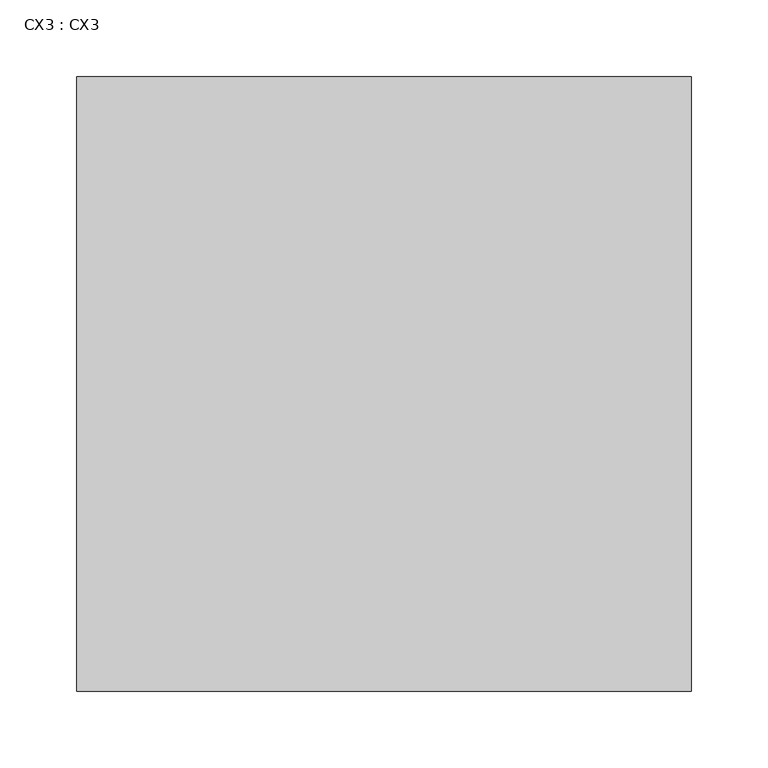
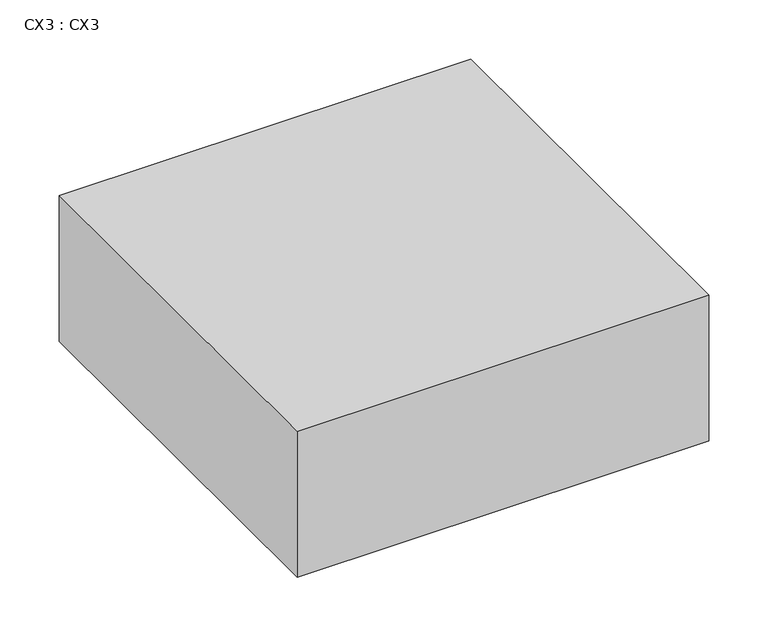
"""IFC4 building model written with IfcOpenShell, lengths in millimetres: proxy geometry, CX3 : CX3."""

from ifc_helpers import new_model, si_unit, frame, origin, place, context, project, spatial, polyline, outline, extrude, source, transform, mapped, element, save


def cx3_cx3_4929cd0b(model_context):
    return source(origin(), model_context, "Body", "SweptSolid", [
        extrude(outline(polyline([(4370.06, 29302.8), (4770.06, 29302.8), (4770.06, 28902.8), (4370.06, 28902.8), (4370.06, 29302.8)])), frame((0.0, 0.0, 2870.0), z_axis=(0.0, 0.0, 1.0), x_axis=(1.0, 0.0, 0.0)), (0.0, 0.0, 1.0), 150.0),
    ])


if __name__ == "__main__":
    model = new_model("IFC4")
    model_context = context("Model", 3, world=origin())
    ifc_project = project(units=[si_unit("LENGTHUNIT", "METRE", prefix="MILLI")], contexts=[model_context])
    site = spatial("IfcSite", under=ifc_project)
    building = spatial("IfcBuilding", under=site)
    placement = place(None, origin())
    cx3_cx3_shape = cx3_cx3_4929cd0b(model_context)
    element("IfcBuildingElementProxy", 1, Name="CX3 : CX3", ObjectType="CX3 : CX3", at=placement, inside=building, context=model_context, shape_type="MappedRepresentation", body=[
        mapped(cx3_cx3_shape, transform((0.0, 0.0, 0.0), x_axis=(1.0, 0.0, 0.0), y_axis=(0.0, 1.0, 0.0), z_axis=(0.0, 0.0, 1.0))),
    ])
    save(model, "model.ifc")
